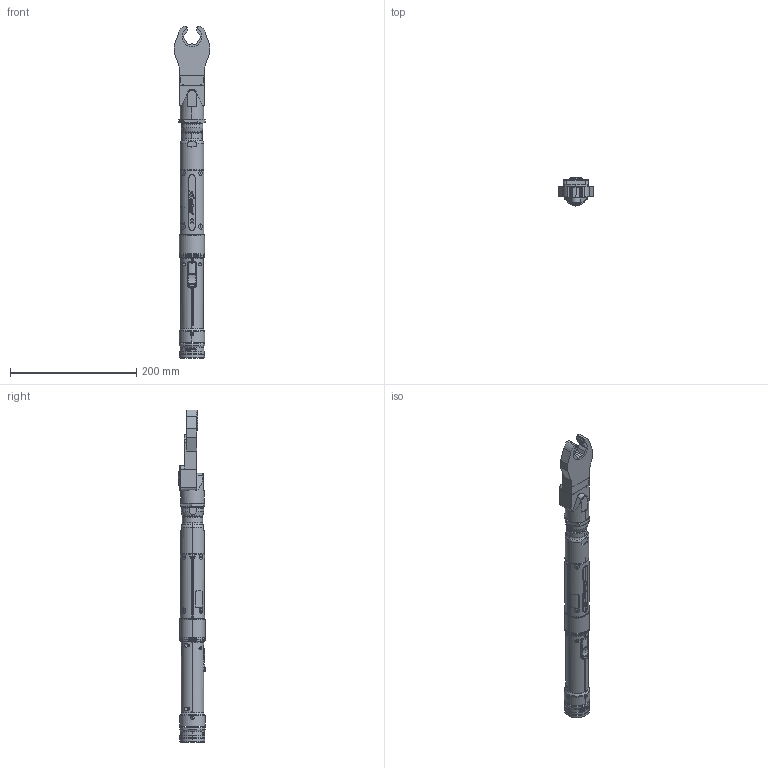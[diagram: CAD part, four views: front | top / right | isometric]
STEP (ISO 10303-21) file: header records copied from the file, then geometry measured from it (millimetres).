
FILE_DESCRIPTION (( 'STEP AP214' ), '1' );
FILE_NAME ('AET4AC22028C.STEP', '2022-08-19T17:28:35', ( '' ), ( '' ), 'SwSTEP 2.0', 'SolidWorks 2022', '' );
FILE_SCHEMA (( 'AUTOMOTIVE_DESIGN' ));
Length unit declared in the file: inch
Products named in the file (1): AET4AC22028C
Bounding box: 56 x 43.81 x 525.83 mm (x, y, z)
Surface area: 97057.7 mm2 (no closed solid volume)
Topology: 0 solids, 92 shells, 977 faces, 3271 edges, 2343 vertices
Faces by surface type: plane 361, cylinder 257, bspline 149, torus 114, cone 82, sphere 14
Entity records: 57063 total; most frequent: CARTESIAN_POINT 17715, DIRECTION 5141, ORIENTED_EDGE 5063, EDGE_CURVE 3267, VERTEX_POINT 2343, AXIS2_PLACEMENT_3D 1792, LINE 1557, VECTOR 1557
